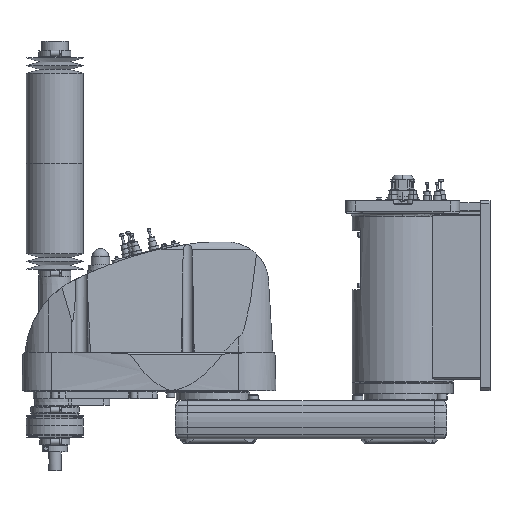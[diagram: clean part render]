
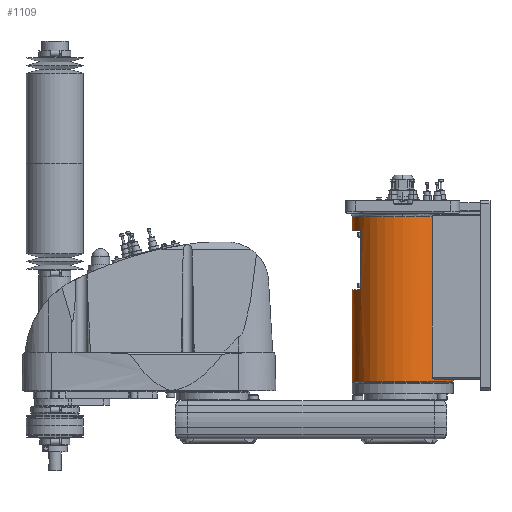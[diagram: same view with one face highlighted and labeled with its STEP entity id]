
A CAD part, top view. The second image highlights one B-rep face of the part: STEP entity #1109.
In plain terms, the highlighted cylindrical face has radius 80 mm (diameter 160 mm), a partial arc.
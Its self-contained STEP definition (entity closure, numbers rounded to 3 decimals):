
#1109 = ADVANCED_FACE( '', ( #3775 ), #3776, .T. );
#3775 = FACE_OUTER_BOUND( '', #7768, .T. );
#3776 = CYLINDRICAL_SURFACE( '', #7769, 80. );
#7768 = EDGE_LOOP( '', ( #15731, #15732, #15733, #15734, #15735, #15736, #15737, #15738, #15739, #15740, #15741, #15742 ) );
#7769 = AXIS2_PLACEMENT_3D( '', #15743, #15744, #15745 );
#15731 = ORIENTED_EDGE( '', *, *, #24766, .T. );
#15732 = ORIENTED_EDGE( '', *, *, #26347, .T. );
#15733 = ORIENTED_EDGE( '', *, *, #26344, .T. );
#15734 = ORIENTED_EDGE( '', *, *, #26341, .T. );
#15735 = ORIENTED_EDGE( '', *, *, #24817, .F. );
#15736 = ORIENTED_EDGE( '', *, *, #24823, .F. );
#15737 = ORIENTED_EDGE( '', *, *, #24772, .T. );
#15738 = ORIENTED_EDGE( '', *, *, #26159, .T. );
#15739 = ORIENTED_EDGE( '', *, *, #26161, .T. );
#15740 = ORIENTED_EDGE( '', *, *, #26162, .T. );
#15741 = ORIENTED_EDGE( '', *, *, #24768, .T. );
#15742 = ORIENTED_EDGE( '', *, *, #26462, .T. );
#15743 = CARTESIAN_POINT( '', ( 0., 160.75, 0. ) );
#15744 = DIRECTION( '', ( 0., -1., 0. ) );
#15745 = DIRECTION( '', ( 1., 0., 0. ) );
#24766 = EDGE_CURVE( '', #29236, #29237, #29238, .T. );
#24768 = EDGE_CURVE( '', #29241, #29239, #29242, .T. );
#24772 = EDGE_CURVE( '', #29249, #29247, #29250, .T. );
#24817 = EDGE_CURVE( '', #29335, #29337, #29338, .T. );
#24823 = EDGE_CURVE( '', #29249, #29335, #29348, .T. );
#26159 = EDGE_CURVE( '', #29247, #31543, #31545, .T. );
#26161 = EDGE_CURVE( '', #31543, #31546, #31548, .T. );
#26162 = EDGE_CURVE( '', #31546, #29241, #31549, .T. );
#26341 = EDGE_CURVE( '', #31834, #29337, #31835, .T. );
#26344 = EDGE_CURVE( '', #31838, #31834, #31839, .T. );
#26347 = EDGE_CURVE( '', #29237, #31838, #31842, .T. );
#26462 = EDGE_CURVE( '', #29239, #29236, #32016, .T. );
#29236 = VERTEX_POINT( '', #36566 );
#29237 = VERTEX_POINT( '', #36567 );
#29238 = LINE( '', #36568, #36569 );
#29239 = VERTEX_POINT( '', #36570 );
#29241 = VERTEX_POINT( '', #36572 );
#29242 = LINE( '', #36573, #36574 );
#29247 = VERTEX_POINT( '', #36580 );
#29249 = VERTEX_POINT( '', #36582 );
#29250 = LINE( '', #36583, #36584 );
#29335 = VERTEX_POINT( '', #36705 );
#29337 = VERTEX_POINT( '', #36707 );
#29338 = CIRCLE( '', #36708, 80. );
#29348 = CIRCLE( '', #36755, 80. );
#31543 = VERTEX_POINT( '', #39826 );
#31545 = CIRCLE( '', #39829, 80. );
#31546 = VERTEX_POINT( '', #39830 );
#31548 = LINE( '', #39833, #39834 );
#31549 = CIRCLE( '', #39835, 80. );
#31834 = VERTEX_POINT( '', #40313 );
#31835 = LINE( '', #40314, #40315 );
#31838 = VERTEX_POINT( '', #40320 );
#31839 = B_SPLINE_CURVE_WITH_KNOTS( '', 3, ( #40321, #40322, #40323, #40324, #40325, #40326, #40327, #40328, #40329, #40330, #40331, #40332, #40333, #40334, #40335, #40336 ), .UNSPECIFIED., .F., .F., ( 4, 2, 2, 2, 2, 2, 2, 4 ), ( -6.06, -5.11, -4.16, -2.26, -1.695, -1.13, -0.565, 0. ), .UNSPECIFIED. );
#31842 = CIRCLE( '', #40341, 80. );
#32016 = CIRCLE( '', #40716, 80. );
#36566 = CARTESIAN_POINT( '', ( 80., 30., 0. ) );
#36567 = CARTESIAN_POINT( '', ( 80., 34.5, 0. ) );
#36568 = CARTESIAN_POINT( '', ( 80., 160.75, 0. ) );
#36569 = VECTOR( '', #50617, 1. );
#36570 = CARTESIAN_POINT( '', ( -80., 30., 0. ) );
#36572 = CARTESIAN_POINT( '', ( -80., 176., 0. ) );
#36573 = CARTESIAN_POINT( '', ( -80., 160.75, 0. ) );
#36574 = VECTOR( '', #50621, 1. );
#36580 = CARTESIAN_POINT( '', ( -80., 269., 0. ) );
#36582 = CARTESIAN_POINT( '', ( -80., 291.5, 0. ) );
#36583 = CARTESIAN_POINT( '', ( -80., 160.75, 0. ) );
#36584 = VECTOR( '', #50629, 1. );
#36705 = CARTESIAN_POINT( '', ( 0., 291.5, 80. ) );
#36707 = CARTESIAN_POINT( '', ( 46.637, 291.5, 65. ) );
#36708 = AXIS2_PLACEMENT_3D( '', #50717, #50718, #50719 );
#36755 = AXIS2_PLACEMENT_3D( '', #50726, #50727, #50728 );
#39826 = CARTESIAN_POINT( '', ( -66., 269., 45.211 ) );
#39829 = AXIS2_PLACEMENT_3D( '', #53072, #53073, #53074 );
#39830 = CARTESIAN_POINT( '', ( -66., 176., 45.211 ) );
#39833 = CARTESIAN_POINT( '', ( -66., 222.5, 45.211 ) );
#39834 = VECTOR( '', #53076, 1. );
#39835 = AXIS2_PLACEMENT_3D( '', #53077, #53078, #53079 );
#40313 = CARTESIAN_POINT( '', ( 46.637, 37.5, 65. ) );
#40314 = CARTESIAN_POINT( '', ( 46.637, 164.5, 65. ) );
#40315 = VECTOR( '', #53320, 1. );
#40320 = CARTESIAN_POINT( '', ( 50.557, 34.5, 62. ) );
#40321 = CARTESIAN_POINT( '', ( 50.557, 34.5, 62. ) );
#40322 = CARTESIAN_POINT( '', ( 50.312, 34.5, 62.2 ) );
#40323 = CARTESIAN_POINT( '', ( 50.054, 34.52, 62.407 ) );
#40324 = CARTESIAN_POINT( '', ( 49.533, 34.607, 62.822 ) );
#40325 = CARTESIAN_POINT( '', ( 49.269, 34.674, 63.029 ) );
#40326 = CARTESIAN_POINT( '', ( 48.491, 34.945, 63.632 ) );
#40327 = CARTESIAN_POINT( '', ( 47.991, 35.221, 64.009 ) );
#40328 = CARTESIAN_POINT( '', ( 47.455, 35.701, 64.405 ) );
#40329 = CARTESIAN_POINT( '', ( 47.333, 35.827, 64.495 ) );
#40330 = CARTESIAN_POINT( '', ( 47.106, 36.105, 64.661 ) );
#40331 = CARTESIAN_POINT( '', ( 47.002, 36.258, 64.736 ) );
#40332 = CARTESIAN_POINT( '', ( 46.828, 36.585, 64.863 ) );
#40333 = CARTESIAN_POINT( '', ( 46.758, 36.761, 64.913 ) );
#40334 = CARTESIAN_POINT( '', ( 46.662, 37.124, 64.982 ) );
#40335 = CARTESIAN_POINT( '', ( 46.637, 37.312, 65. ) );
#40336 = CARTESIAN_POINT( '', ( 46.637, 37.5, 65. ) );
#40341 = AXIS2_PLACEMENT_3D( '', #53325, #53326, #53327 );
#40716 = AXIS2_PLACEMENT_3D( '', #53507, #53508, #53509 );
#50617 = DIRECTION( '', ( 0., 1., 0. ) );
#50621 = DIRECTION( '', ( 0., -1., 0. ) );
#50629 = DIRECTION( '', ( 0., -1., 0. ) );
#50717 = CARTESIAN_POINT( '', ( 0., 291.5, 0. ) );
#50718 = DIRECTION( '', ( 0., 1., 0. ) );
#50719 = DIRECTION( '', ( 1., 0., 0. ) );
#50726 = CARTESIAN_POINT( '', ( 0., 291.5, 0. ) );
#50727 = DIRECTION( '', ( 0., 1., 0. ) );
#50728 = DIRECTION( '', ( 1., 0., 0. ) );
#53072 = CARTESIAN_POINT( '', ( 0., 269., 0. ) );
#53073 = DIRECTION( '', ( 0., 1., 0. ) );
#53074 = DIRECTION( '', ( 1., 0., 0. ) );
#53076 = DIRECTION( '', ( 0., -1., 0. ) );
#53077 = CARTESIAN_POINT( '', ( 0., 176., 0. ) );
#53078 = DIRECTION( '', ( 0., -1., 0. ) );
#53079 = DIRECTION( '', ( 1., 0., 0. ) );
#53320 = DIRECTION( '', ( 0., 1., 0. ) );
#53325 = CARTESIAN_POINT( '', ( 0., 34.5, 0. ) );
#53326 = DIRECTION( '', ( 0., -1., 0. ) );
#53327 = DIRECTION( '', ( 1., 0., 0. ) );
#53507 = CARTESIAN_POINT( '', ( 0., 30., 0. ) );
#53508 = DIRECTION( '', ( 0., 1., 0. ) );
#53509 = DIRECTION( '', ( 1., 0., 0. ) );
